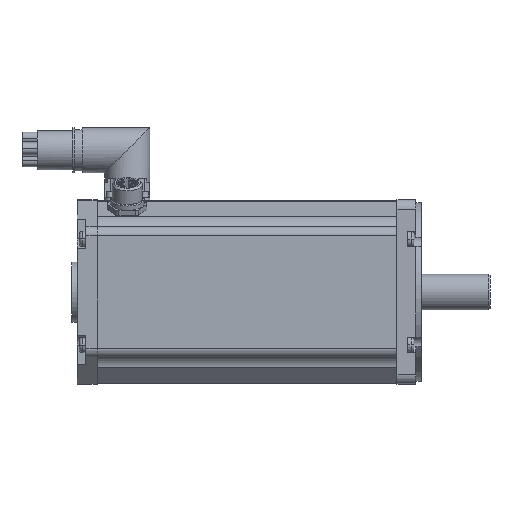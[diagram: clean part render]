
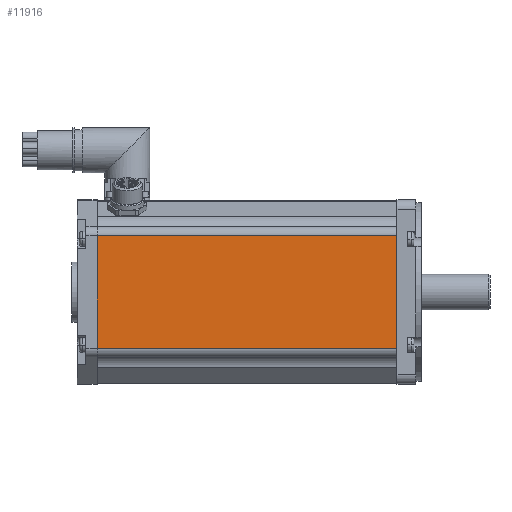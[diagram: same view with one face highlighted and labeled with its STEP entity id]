
A CAD part, top view. The second image highlights one B-rep face of the part: STEP entity #11916.
In plain terms, the highlighted planar face has unit normal (0, 0, 1).
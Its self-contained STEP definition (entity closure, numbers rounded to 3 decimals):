
#633=DIRECTION('',(0.,-1.,0.));
#634=VECTOR('',#633,60.);
#635=CARTESIAN_POINT('',(-169.5,30.,48.5));
#636=LINE('',#635,#634);
#3158=DIRECTION('',(-1.,0.,0.));
#3159=VECTOR('',#3158,159.5);
#3160=CARTESIAN_POINT('',(-10.,30.,48.5));
#3161=LINE('',#3160,#3159);
#3166=DIRECTION('',(0.,-1.,0.));
#3167=VECTOR('',#3166,60.);
#3168=CARTESIAN_POINT('',(-10.,30.,48.5));
#3169=LINE('',#3168,#3167);
#3174=DIRECTION('',(1.,0.,0.));
#3175=VECTOR('',#3174,159.5);
#3176=CARTESIAN_POINT('',(-169.5,-30.,48.5));
#3177=LINE('',#3176,#3175);
#6722=CARTESIAN_POINT('',(-169.5,30.,48.5));
#6723=VERTEX_POINT('',#6722);
#6724=CARTESIAN_POINT('',(-169.5,-30.,48.5));
#6725=VERTEX_POINT('',#6724);
#6818=CARTESIAN_POINT('',(-10.,-30.,48.5));
#6819=VERTEX_POINT('',#6818);
#6820=CARTESIAN_POINT('',(-10.,30.,48.5));
#6821=VERTEX_POINT('',#6820);
#11904=CARTESIAN_POINT('',(-10.,-30.,48.5));
#11905=DIRECTION('',(0.,0.,1.));
#11906=DIRECTION('',(0.,1.,0.));
#11907=AXIS2_PLACEMENT_3D('',#11904,#11905,#11906);
#11908=PLANE('',#11907);
#11909=ORIENTED_EDGE('',*,*,#9739,.T.);
#11911=ORIENTED_EDGE('',*,*,#11910,.F.);
#11912=ORIENTED_EDGE('',*,*,#8721,.F.);
#11913=ORIENTED_EDGE('',*,*,#11897,.F.);
#11914=EDGE_LOOP('',(#11909,#11911,#11912,#11913));
#11915=FACE_OUTER_BOUND('',#11914,.F.);
#8721=EDGE_CURVE('',#6723,#6725,#636,.T.);
#9739=EDGE_CURVE('',#6821,#6819,#3169,.T.);
#11897=EDGE_CURVE('',#6821,#6723,#3161,.T.);
#11910=EDGE_CURVE('',#6725,#6819,#3177,.T.);
#11916=ADVANCED_FACE('',(#11915),#11908,.T.);
